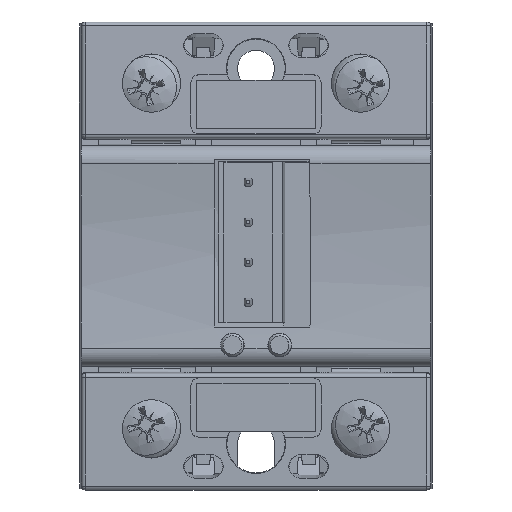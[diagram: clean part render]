
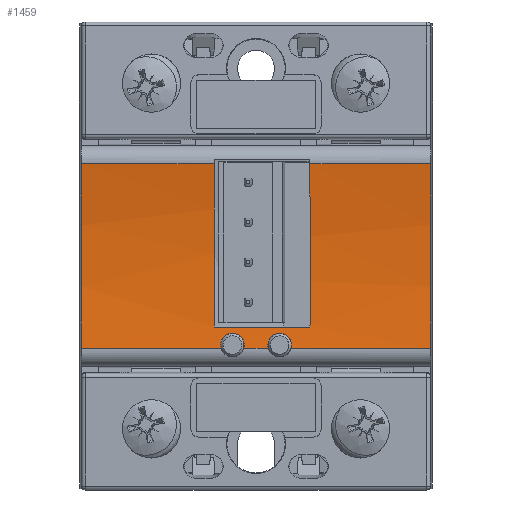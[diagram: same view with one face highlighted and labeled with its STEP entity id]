
A CAD part, top view. The second image highlights one B-rep face of the part: STEP entity #1459.
In plain terms, the highlighted cylindrical face has radius 80 mm (diameter 160 mm), a partial arc.
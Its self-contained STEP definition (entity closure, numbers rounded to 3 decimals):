
#1079=CARTESIAN_POINT('',(22.145,11.688,28.634));
#1080=VERTEX_POINT('',#1079);
#1090=CARTESIAN_POINT('',(22.145,-11.704,28.634));
#1091=VERTEX_POINT('',#1090);
#1092=CARTESIAN_POINT('',(20.763,-0.008,107.775));
#1093=DIRECTION('',(-1.,0.,-0.017));
#1094=DIRECTION('',(0.017,0.,-1.));
#1095=AXIS2_PLACEMENT_3D('',#1092,#1093,#1094);
#1096=ELLIPSE('',#1095,80.012,80.);
#1097=EDGE_CURVE('',#1080,#1091,#1096,.T.);
#1284=CARTESIAN_POINT('',(-22.145,-11.704,28.634));
#1285=VERTEX_POINT('',#1284);
#1293=CARTESIAN_POINT('',(-22.145,11.688,28.634));
#1294=VERTEX_POINT('',#1293);
#1295=CARTESIAN_POINT('',(-20.763,-0.008,107.775));
#1296=DIRECTION('',(1.,0.,-0.017));
#1297=DIRECTION('',(-0.017,0.,-1.));
#1298=AXIS2_PLACEMENT_3D('',#1295,#1296,#1297);
#1299=ELLIPSE('',#1298,80.012,80.0);
#1300=EDGE_CURVE('',#1285,#1294,#1299,.T.);
#1320=CARTESIAN_POINT('',(0.,-0.008,107.775));
#1321=DIRECTION('',(1.0,0.,0.));
#1322=DIRECTION('',(0.,0.174,-0.985));
#1323=AXIS2_PLACEMENT_3D('',#1320,#1321,#1322);
#1324=CYLINDRICAL_SURFACE('',#1323,80.);
#1325=ORIENTED_EDGE('',*,*,#1300,.F.);
#1326=CARTESIAN_POINT('',(-4.447,-11.704,28.634));
#1327=VERTEX_POINT('',#1326);
#1328=CARTESIAN_POINT('',(-4.447,-11.704,28.634));
#1329=DIRECTION('',(-1.0,0.0,0.0));
#1330=VECTOR('',#1329,17.698);
#1331=LINE('',#1328,#1330);
#1332=EDGE_CURVE('',#1327,#1285,#1331,.T.);
#1333=ORIENTED_EDGE('',*,*,#1332,.F.);
#1334=CARTESIAN_POINT('',(-3.,-9.808,28.377));
#1335=VERTEX_POINT('',#1334);
#1336=CARTESIAN_POINT('',(-4.447,-11.704,28.634));
#1337=CARTESIAN_POINT('',(-4.483,-11.572,28.615));
#1338=CARTESIAN_POINT('',(-4.5,-11.437,28.595));
#1339=CARTESIAN_POINT('',(-4.5,-11.12,28.55));
#1340=CARTESIAN_POINT('',(-4.462,-10.918,28.522));
#1341=CARTESIAN_POINT('',(-4.309,-10.548,28.472));
#1342=CARTESIAN_POINT('',(-4.193,-10.379,28.45));
#1343=CARTESIAN_POINT('',(-3.926,-10.113,28.415));
#1344=CARTESIAN_POINT('',(-3.758,-9.998,28.401));
#1345=CARTESIAN_POINT('',(-3.389,-9.845,28.382));
#1346=CARTESIAN_POINT('',(-3.188,-9.808,28.377));
#1347=CARTESIAN_POINT('',(-3.,-9.808,28.377));
#1348=B_SPLINE_CURVE_WITH_KNOTS('',3,(#1336,#1337,#1338,#1339,#1340,#1341,#1342,#1343,#1344,#1345,#1346,#1347),.UNSPECIFIED.,.F.,.U.,(4,2,2,2,2,4),(0.643,0.682,0.739,0.796,0.852,0.909),.UNSPECIFIED.);
#1349=EDGE_CURVE('',#1327,#1335,#1348,.T.);
#1350=ORIENTED_EDGE('',*,*,#1349,.T.);
#1351=CARTESIAN_POINT('',(-1.553,-11.704,28.634));
#1352=VERTEX_POINT('',#1351);
#1353=CARTESIAN_POINT('',(-3.,-9.808,28.377));
#1354=CARTESIAN_POINT('',(-2.812,-9.808,28.377));
#1355=CARTESIAN_POINT('',(-2.611,-9.845,28.382));
#1356=CARTESIAN_POINT('',(-2.242,-9.998,28.401));
#1357=CARTESIAN_POINT('',(-2.074,-10.113,28.415));
#1358=CARTESIAN_POINT('',(-1.807,-10.379,28.45));
#1359=CARTESIAN_POINT('',(-1.691,-10.548,28.472));
#1360=CARTESIAN_POINT('',(-1.538,-10.918,28.522));
#1361=CARTESIAN_POINT('',(-1.5,-11.12,28.55));
#1362=CARTESIAN_POINT('',(-1.5,-11.437,28.595));
#1363=CARTESIAN_POINT('',(-1.517,-11.572,28.615));
#1364=CARTESIAN_POINT('',(-1.553,-11.704,28.634));
#1365=B_SPLINE_CURVE_WITH_KNOTS('',3,(#1353,#1354,#1355,#1356,#1357,#1358,#1359,#1360,#1361,#1362,#1363,#1364),.UNSPECIFIED.,.F.,.U.,(4,2,2,2,2,4),(0.0,0.056,0.113,0.17,0.227,0.266),.UNSPECIFIED.);
#1366=EDGE_CURVE('',#1335,#1352,#1365,.T.);
#1367=ORIENTED_EDGE('',*,*,#1366,.T.);
#1368=CARTESIAN_POINT('',(1.553,-11.704,28.634));
#1369=VERTEX_POINT('',#1368);
#1370=CARTESIAN_POINT('',(1.553,-11.704,28.634));
#1371=DIRECTION('',(-1.0,0.0,0.0));
#1372=VECTOR('',#1371,3.106);
#1373=LINE('',#1370,#1372);
#1374=EDGE_CURVE('',#1369,#1352,#1373,.T.);
#1375=ORIENTED_EDGE('',*,*,#1374,.F.);
#1376=CARTESIAN_POINT('',(3.,-9.808,28.377));
#1377=VERTEX_POINT('',#1376);
#1378=CARTESIAN_POINT('',(1.553,-11.704,28.634));
#1379=CARTESIAN_POINT('',(1.517,-11.572,28.615));
#1380=CARTESIAN_POINT('',(1.5,-11.437,28.595));
#1381=CARTESIAN_POINT('',(1.5,-11.12,28.55));
#1382=CARTESIAN_POINT('',(1.538,-10.918,28.522));
#1383=CARTESIAN_POINT('',(1.691,-10.548,28.472));
#1384=CARTESIAN_POINT('',(1.807,-10.379,28.45));
#1385=CARTESIAN_POINT('',(2.074,-10.113,28.415));
#1386=CARTESIAN_POINT('',(2.242,-9.998,28.401));
#1387=CARTESIAN_POINT('',(2.611,-9.845,28.382));
#1388=CARTESIAN_POINT('',(2.812,-9.808,28.377));
#1389=CARTESIAN_POINT('',(3.,-9.808,28.377));
#1390=B_SPLINE_CURVE_WITH_KNOTS('',3,(#1378,#1379,#1380,#1381,#1382,#1383,#1384,#1385,#1386,#1387,#1388,#1389),.UNSPECIFIED.,.F.,.U.,(4,2,2,2,2,4),(0.643,0.682,0.739,0.796,0.852,0.909),.UNSPECIFIED.);
#1391=EDGE_CURVE('',#1369,#1377,#1390,.T.);
#1392=ORIENTED_EDGE('',*,*,#1391,.T.);
#1393=CARTESIAN_POINT('',(4.447,-11.704,28.634));
#1394=VERTEX_POINT('',#1393);
#1395=CARTESIAN_POINT('',(3.,-9.808,28.377));
#1396=CARTESIAN_POINT('',(3.188,-9.808,28.377));
#1397=CARTESIAN_POINT('',(3.389,-9.845,28.382));
#1398=CARTESIAN_POINT('',(3.758,-9.998,28.401));
#1399=CARTESIAN_POINT('',(3.926,-10.113,28.415));
#1400=CARTESIAN_POINT('',(4.193,-10.379,28.45));
#1401=CARTESIAN_POINT('',(4.309,-10.548,28.472));
#1402=CARTESIAN_POINT('',(4.462,-10.918,28.522));
#1403=CARTESIAN_POINT('',(4.5,-11.12,28.55));
#1404=CARTESIAN_POINT('',(4.5,-11.437,28.595));
#1405=CARTESIAN_POINT('',(4.483,-11.572,28.615));
#1406=CARTESIAN_POINT('',(4.447,-11.704,28.634));
#1407=B_SPLINE_CURVE_WITH_KNOTS('',3,(#1395,#1396,#1397,#1398,#1399,#1400,#1401,#1402,#1403,#1404,#1405,#1406),.UNSPECIFIED.,.F.,.U.,(4,2,2,2,2,4),(0.0,0.056,0.113,0.17,0.227,0.266),.UNSPECIFIED.);
#1408=EDGE_CURVE('',#1377,#1394,#1407,.T.);
#1409=ORIENTED_EDGE('',*,*,#1408,.T.);
#1410=CARTESIAN_POINT('',(22.145,-11.704,28.634));
#1411=DIRECTION('',(-1.0,0.0,0.0));
#1412=VECTOR('',#1411,17.698);
#1413=LINE('',#1410,#1412);
#1414=EDGE_CURVE('',#1091,#1394,#1413,.T.);
#1415=ORIENTED_EDGE('',*,*,#1414,.F.);
#1416=ORIENTED_EDGE('',*,*,#1097,.F.);
#1417=CARTESIAN_POINT('',(6.847,11.688,28.634));
#1418=VERTEX_POINT('',#1417);
#1419=CARTESIAN_POINT('',(6.847,11.688,28.634));
#1420=DIRECTION('',(1.0,0.0,0.0));
#1421=VECTOR('',#1420,15.298);
#1422=LINE('',#1419,#1421);
#1423=EDGE_CURVE('',#1418,#1080,#1422,.T.);
#1424=ORIENTED_EDGE('',*,*,#1423,.F.);
#1425=CARTESIAN_POINT('',(6.853,-9.021,28.284));
#1426=VERTEX_POINT('',#1425);
#1427=CARTESIAN_POINT('',(5.465,-0.008,107.775));
#1428=DIRECTION('',(-1.,0.,-0.017));
#1429=DIRECTION('',(0.017,0.,-1.));
#1430=AXIS2_PLACEMENT_3D('',#1427,#1428,#1429);
#1431=ELLIPSE('',#1430,80.012,80.0);
#1432=EDGE_CURVE('',#1418,#1426,#1431,.T.);
#1433=ORIENTED_EDGE('',*,*,#1432,.T.);
#1434=CARTESIAN_POINT('',(-5.313,-9.021,28.284));
#1435=VERTEX_POINT('',#1434);
#1436=CARTESIAN_POINT('',(-5.313,-9.021,28.284));
#1437=DIRECTION('',(1.0,0.0,0.0));
#1438=VECTOR('',#1437,12.166);
#1439=LINE('',#1436,#1438);
#1440=EDGE_CURVE('',#1426,#1435,#1439,.F.);
#1441=ORIENTED_EDGE('',*,*,#1440,.T.);
#1442=CARTESIAN_POINT('',(-5.307,11.688,28.634));
#1443=VERTEX_POINT('',#1442);
#1444=CARTESIAN_POINT('',(-3.925,-0.008,107.775));
#1445=DIRECTION('',(1.,0.,-0.017));
#1446=DIRECTION('',(-0.017,0.,-1.));
#1447=AXIS2_PLACEMENT_3D('',#1444,#1445,#1446);
#1448=ELLIPSE('',#1447,80.012,80.0);
#1449=EDGE_CURVE('',#1435,#1443,#1448,.T.);
#1450=ORIENTED_EDGE('',*,*,#1449,.T.);
#1451=CARTESIAN_POINT('',(-22.145,11.688,28.634));
#1452=DIRECTION('',(1.0,0.0,0.0));
#1453=VECTOR('',#1452,16.838);
#1454=LINE('',#1451,#1453);
#1455=EDGE_CURVE('',#1294,#1443,#1454,.T.);
#1456=ORIENTED_EDGE('',*,*,#1455,.F.);
#1457=EDGE_LOOP('',(#1325,#1333,#1350,#1367,#1375,#1392,#1409,#1415,#1416,#1424,#1433,#1441,#1450,#1456));
#1458=FACE_OUTER_BOUND('',#1457,.T.);
#1459=ADVANCED_FACE('',(#1458),#1324,.F.);
